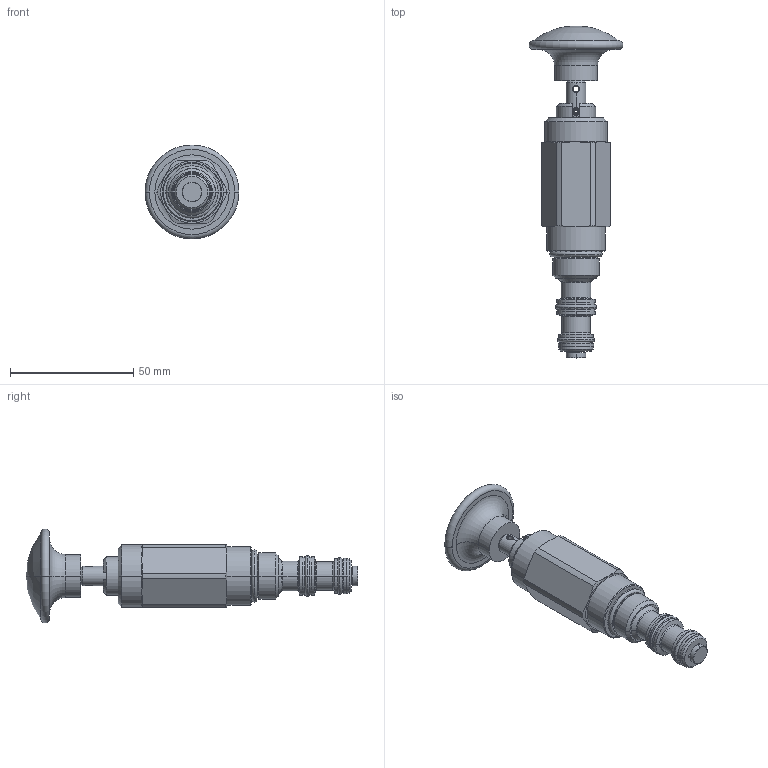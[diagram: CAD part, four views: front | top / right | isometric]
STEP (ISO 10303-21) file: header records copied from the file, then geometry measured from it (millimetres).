
FILE_DESCRIPTION((''),'2;1');
FILE_NAME('MP08-30D','2009-02-04T',('jcs'),(''),'PRO/ENGINEER BY PARAMETRIC TECHNOLOGY CORPORATION, 2008010','PRO/ENGINEER BY PARAMETRIC TECHNOLOGY CORPORATION, 2008010','');
FILE_SCHEMA(('CONFIG_CONTROL_DESIGN'));
Length unit declared in the file: inch
Products named in the file (1): MP08-30D
Bounding box: 38.1 x 134.65 x 38.1 mm (x, y, z)
Volume: 47434.6 mm3; surface area: 13309.4 mm2
Topology: 4 solids, 5 shells, 215 faces, 499 edges, 299 vertices
Faces by surface type: cylinder 62, plane 54, cone 47, torus 26, revolution 24, sphere 2
Entity records: 6989 total; most frequent: CARTESIAN_POINT 2005, DIRECTION 1085, ORIENTED_EDGE 994, EDGE_CURVE 497, AXIS2_PLACEMENT_3D 451, VERTEX_POINT 299, CIRCLE 260, EDGE_LOOP 234
